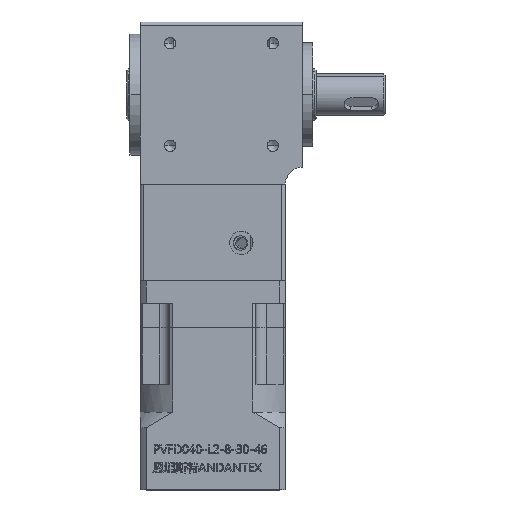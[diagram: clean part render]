
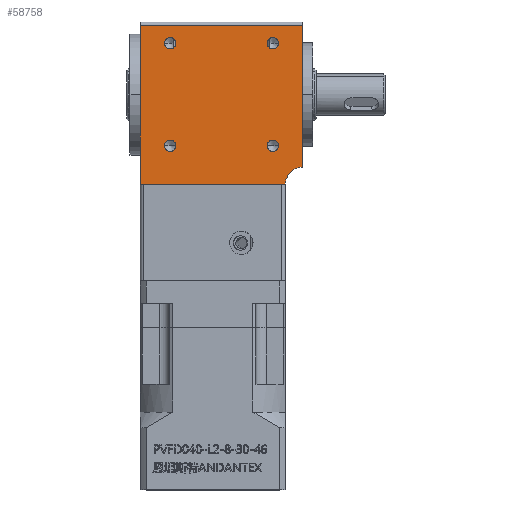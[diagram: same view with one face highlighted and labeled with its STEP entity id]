
A CAD part, top view. The second image highlights one B-rep face of the part: STEP entity #58758.
In plain terms, the highlighted planar face has unit normal (0, 0, 1).
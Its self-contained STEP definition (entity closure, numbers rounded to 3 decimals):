
#720 = CARTESIAN_POINT ( 'NONE',  ( 42.999, -12.349, 21. ) ) ;
#770 = EDGE_CURVE ( 'NONE', #47899, #23319, #59571, .T. ) ;
#885 = DIRECTION ( 'NONE',  ( 0., 0., 1. ) ) ;
#941 = CARTESIAN_POINT ( 'NONE',  ( 39.699, -12.349, 21. ) ) ;
#981 = LINE ( 'NONE', #59580, #24366 ) ;
#1696 = VERTEX_POINT ( 'NONE', #56139 ) ;
#1744 = CARTESIAN_POINT ( 'NONE',  ( 13.301, -12.349, 21. ) ) ;
#2072 = CIRCLE ( 'NONE', #23504, 1.65 ) ;
#2456 = CIRCLE ( 'NONE', #16552, 1.65 ) ;
#2888 = VERTEX_POINT ( 'NONE', #14664 ) ;
#4665 = DIRECTION ( 'NONE',  ( 1., 0., 0. ) ) ;
#4867 = CARTESIAN_POINT ( 'NONE',  ( 41.349, 17.349, 21. ) ) ;
#5914 = DIRECTION ( 'NONE',  ( 0., 0., 1. ) ) ;
#6135 = ORIENTED_EDGE ( 'NONE', *, *, #36015, .F. ) ;
#7312 = VECTOR ( 'NONE', #30597, 1000. ) ;
#7801 = ORIENTED_EDGE ( 'NONE', *, *, #36825, .F. ) ;
#7881 = EDGE_LOOP ( 'NONE', ( #29606, #23541 ) ) ;
#9456 = FACE_BOUND ( 'NONE', #17954, .T. ) ;
#9525 = PLANE ( 'NONE',  #27451 ) ;
#10373 = DIRECTION ( 'NONE',  ( 0., 0., 1. ) ) ;
#10551 = EDGE_CURVE ( 'NONE', #2888, #28953, #40481, .T. ) ;
#11307 = VERTEX_POINT ( 'NONE', #1744 ) ;
#12369 = CARTESIAN_POINT ( 'NONE',  ( 41.349, 17.349, 21. ) ) ;
#13408 = CARTESIAN_POINT ( 'NONE',  ( 11.651, 17.349, 21. ) ) ;
#13931 = ORIENTED_EDGE ( 'NONE', *, *, #10551, .F. ) ;
#14514 = DIRECTION ( 'NONE',  ( 0., 0., 1. ) ) ;
#14664 = CARTESIAN_POINT ( 'NONE',  ( 39.699, 17.349, 21. ) ) ;
#14697 = CARTESIAN_POINT ( 'NONE',  ( 3., -23.5, 21. ) ) ;
#14826 = EDGE_CURVE ( 'NONE', #44673, #23319, #55088, .T. ) ;
#15137 = CARTESIAN_POINT ( 'NONE',  ( 10.001, 17.349, 21. ) ) ;
#15332 = EDGE_CURVE ( 'NONE', #55240, #47899, #45417, .T. ) ;
#15880 = CIRCLE ( 'NONE', #44299, 1.65 ) ;
#16552 = AXIS2_PLACEMENT_3D ( 'NONE', #33802, #5914, #38521 ) ;
#17052 = DIRECTION ( 'NONE',  ( 1., 0., 0. ) ) ;
#17319 = DIRECTION ( 'NONE',  ( 1., 0., 0. ) ) ;
#17466 = DIRECTION ( 'NONE',  ( 0., 1., 0. ) ) ;
#17515 = CARTESIAN_POINT ( 'NONE',  ( 53., -23.5, 21. ) ) ;
#17676 = ORIENTED_EDGE ( 'NONE', *, *, #770, .T. ) ;
#17954 = EDGE_LOOP ( 'NONE', ( #6135, #13931 ) ) ;
#18042 = DIRECTION ( 'NONE',  ( 1., 0., 0. ) ) ;
#18184 = VERTEX_POINT ( 'NONE', #941 ) ;
#19652 = CARTESIAN_POINT ( 'NONE',  ( 50., 22.5, 21. ) ) ;
#21176 = DIRECTION ( 'NONE',  ( 1., 0., 0. ) ) ;
#21244 = DIRECTION ( 'NONE',  ( 0., 0., -1. ) ) ;
#21300 = CARTESIAN_POINT ( 'NONE',  ( 50., -23.5, 21. ) ) ;
#21743 = FACE_BOUND ( 'NONE', #58409, .T. ) ;
#21980 = CARTESIAN_POINT ( 'NONE',  ( 11.651, -12.349, 21. ) ) ;
#23319 = VERTEX_POINT ( 'NONE', #30142 ) ;
#23453 = DIRECTION ( 'NONE',  ( 0., 0., -1. ) ) ;
#23504 = AXIS2_PLACEMENT_3D ( 'NONE', #38281, #10373, #43037 ) ;
#23541 = ORIENTED_EDGE ( 'NONE', *, *, #43669, .F. ) ;
#24177 = VERTEX_POINT ( 'NONE', #720 ) ;
#24366 = VECTOR ( 'NONE', #17466, 1000. ) ;
#25376 = VERTEX_POINT ( 'NONE', #46374 ) ;
#26678 = DIRECTION ( 'NONE',  ( 1., 0., 0. ) ) ;
#27290 = CARTESIAN_POINT ( 'NONE',  ( 45., -23.5, 21. ) ) ;
#27451 = AXIS2_PLACEMENT_3D ( 'NONE', #51675, #23453, #56451 ) ;
#28492 = VECTOR ( 'NONE', #34761, 1000. ) ;
#28624 = ORIENTED_EDGE ( 'NONE', *, *, #58172, .F. ) ;
#28863 = CARTESIAN_POINT ( 'NONE',  ( 11.651, 17.349, 21. ) ) ;
#28953 = VERTEX_POINT ( 'NONE', #33723 ) ;
#29606 = ORIENTED_EDGE ( 'NONE', *, *, #37662, .F. ) ;
#30142 = CARTESIAN_POINT ( 'NONE',  ( 50., -18.5, 21. ) ) ;
#30597 = DIRECTION ( 'NONE',  ( 1., 0., 0. ) ) ;
#30965 = EDGE_LOOP ( 'NONE', ( #40931, #7801 ) ) ;
#31004 = CARTESIAN_POINT ( 'NONE',  ( 13.301, 17.349, 21. ) ) ;
#33098 = AXIS2_PLACEMENT_3D ( 'NONE', #42531, #14514, #47293 ) ;
#33581 = DIRECTION ( 'NONE',  ( 1., 0., 0. ) ) ;
#33723 = CARTESIAN_POINT ( 'NONE',  ( 42.999, 17.349, 21. ) ) ;
#33802 = CARTESIAN_POINT ( 'NONE',  ( 41.349, -12.349, 21. ) ) ;
#33986 = AXIS2_PLACEMENT_3D ( 'NONE', #12369, #45143, #17052 ) ;
#34184 = FACE_BOUND ( 'NONE', #7881, .T. ) ;
#34696 = CARTESIAN_POINT ( 'NONE',  ( 50., 0., 21. ) ) ;
#34761 = DIRECTION ( 'NONE',  ( 0., -1., 0. ) ) ;
#35654 = FACE_OUTER_BOUND ( 'NONE', #55186, .T. ) ;
#36015 = EDGE_CURVE ( 'NONE', #28953, #2888, #43774, .T. ) ;
#36244 = CIRCLE ( 'NONE', #37603, 1.65 ) ;
#36825 = EDGE_CURVE ( 'NONE', #45236, #57402, #15880, .T. ) ;
#37603 = AXIS2_PLACEMENT_3D ( 'NONE', #21980, #54934, #26678 ) ;
#37662 = EDGE_CURVE ( 'NONE', #11307, #25376, #36244, .T. ) ;
#38281 = CARTESIAN_POINT ( 'NONE',  ( 41.349, -12.349, 21. ) ) ;
#38521 = DIRECTION ( 'NONE',  ( 1., 0., 0. ) ) ;
#40481 = CIRCLE ( 'NONE', #47053, 1.65 ) ;
#40710 = EDGE_CURVE ( 'NONE', #24177, #18184, #2456, .T. ) ;
#40931 = ORIENTED_EDGE ( 'NONE', *, *, #59618, .F. ) ;
#41934 = ORIENTED_EDGE ( 'NONE', *, *, #45479, .F. ) ;
#42531 = CARTESIAN_POINT ( 'NONE',  ( 11.651, -12.349, 21. ) ) ;
#43028 = ORIENTED_EDGE ( 'NONE', *, *, #40710, .F. ) ;
#43037 = DIRECTION ( 'NONE',  ( 1., 0., 0. ) ) ;
#43669 = EDGE_CURVE ( 'NONE', #25376, #11307, #55814, .T. ) ;
#43774 = CIRCLE ( 'NONE', #33986, 1.65 ) ;
#44066 = AXIS2_PLACEMENT_3D ( 'NONE', #28863, #885, #33581 ) ;
#44299 = AXIS2_PLACEMENT_3D ( 'NONE', #13408, #46206, #18042 ) ;
#44603 = LINE ( 'NONE', #45002, #7312 ) ;
#44673 = VERTEX_POINT ( 'NONE', #19652 ) ;
#45002 = CARTESIAN_POINT ( 'NONE',  ( 53., 22.5, 21. ) ) ;
#45143 = DIRECTION ( 'NONE',  ( 0., 0., 1. ) ) ;
#45236 = VERTEX_POINT ( 'NONE', #15137 ) ;
#45417 = LINE ( 'NONE', #17515, #56519 ) ;
#45479 = EDGE_CURVE ( 'NONE', #1696, #44673, #44603, .T. ) ;
#46206 = DIRECTION ( 'NONE',  ( 0., 0., 1. ) ) ;
#46241 = DIRECTION ( 'NONE',  ( 0., 0., 1. ) ) ;
#46374 = CARTESIAN_POINT ( 'NONE',  ( 10.001, -12.349, 21. ) ) ;
#47053 = AXIS2_PLACEMENT_3D ( 'NONE', #4867, #46241, #4665 ) ;
#47293 = DIRECTION ( 'NONE',  ( 1., 0., 0. ) ) ;
#47899 = VERTEX_POINT ( 'NONE', #27290 ) ;
#48680 = ORIENTED_EDGE ( 'NONE', *, *, #60754, .F. ) ;
#51675 = CARTESIAN_POINT ( 'NONE',  ( 53., -23.5, 21. ) ) ;
#54146 = ORIENTED_EDGE ( 'NONE', *, *, #14826, .F. ) ;
#54176 = CIRCLE ( 'NONE', #44066, 1.65 ) ;
#54934 = DIRECTION ( 'NONE',  ( 0., 0., 1. ) ) ;
#55088 = LINE ( 'NONE', #34696, #28492 ) ;
#55113 = AXIS2_PLACEMENT_3D ( 'NONE', #21300, #21244, #21176 ) ;
#55186 = EDGE_LOOP ( 'NONE', ( #41934, #48680, #55369, #17676, #54146 ) ) ;
#55240 = VERTEX_POINT ( 'NONE', #14697 ) ;
#55369 = ORIENTED_EDGE ( 'NONE', *, *, #15332, .T. ) ;
#55814 = CIRCLE ( 'NONE', #33098, 1.65 ) ;
#56139 = CARTESIAN_POINT ( 'NONE',  ( 3., 22.5, 21. ) ) ;
#56451 = DIRECTION ( 'NONE',  ( -1., 0., 0. ) ) ;
#56519 = VECTOR ( 'NONE', #17319, 1000. ) ;
#57402 = VERTEX_POINT ( 'NONE', #31004 ) ;
#58172 = EDGE_CURVE ( 'NONE', #18184, #24177, #2072, .T. ) ;
#58409 = EDGE_LOOP ( 'NONE', ( #43028, #28624 ) ) ;
#58758 = ADVANCED_FACE ( 'NONE', ( #35654, #59266, #34184, #21743, #9456 ), #9525, .F. ) ;
#59266 = FACE_BOUND ( 'NONE', #30965, .T. ) ;
#59571 = CIRCLE ( 'NONE', #55113, 5. ) ;
#59580 = CARTESIAN_POINT ( 'NONE',  ( 3., 0., 21. ) ) ;
#59618 = EDGE_CURVE ( 'NONE', #57402, #45236, #54176, .T. ) ;
#60754 = EDGE_CURVE ( 'NONE', #55240, #1696, #981, .T. ) ;
